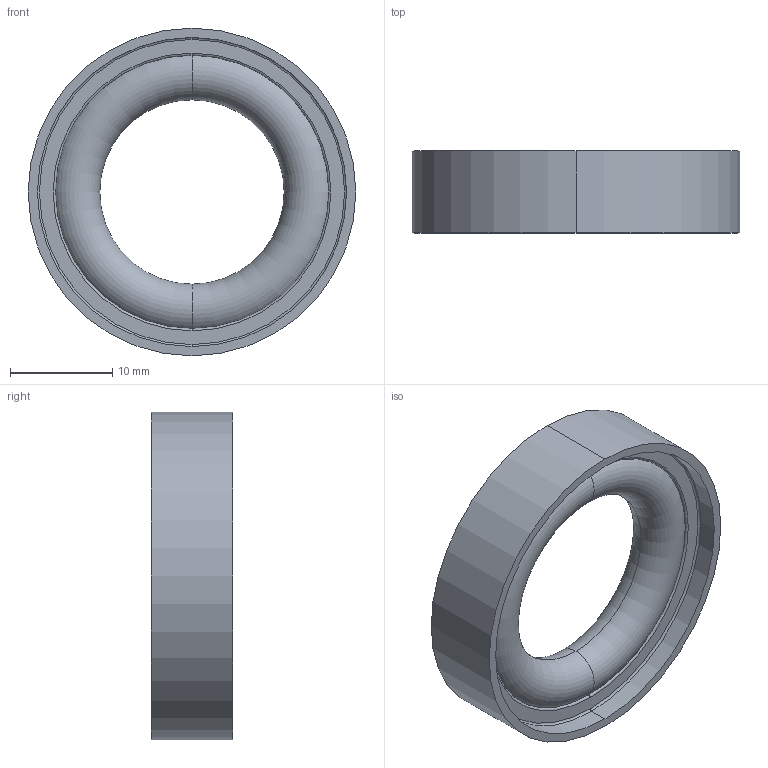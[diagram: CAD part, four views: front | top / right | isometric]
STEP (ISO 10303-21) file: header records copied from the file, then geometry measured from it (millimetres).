
FILE_DESCRIPTION (( 'STEP AP214' ), '1' );
FILE_NAME ('W3AZR16.STEP', '2019-11-14T06:11:02', ( '' ), ( '' ), 'SwSTEP 2.0', 'SolidWorks 2018', '' );
FILE_SCHEMA (( 'AUTOMOTIVE_DESIGN' ));
Length unit declared in the file: millimetre
Products named in the file (3): W3AZR16; W3ZA16_Ring
Assembly tree (2 placements, depth 2):
  W3AZR16
    W3AZR16
    W3ZA16_Ring
Bounding box: 32 x 8 x 32 mm (x, y, z)
Volume: 2603.7 mm3; surface area: 3148.1 mm2
Topology: 2 solids, 2 shells, 28 faces, 56 edges, 32 vertices
Faces by surface type: torus 18, cylinder 6, plane 4
Entity records: 860 total; most frequent: DIRECTION 172, CARTESIAN_POINT 121, ORIENTED_EDGE 112, AXIS2_PLACEMENT_3D 83, EDGE_CURVE 56, CIRCLE 50, VERTEX_POINT 32, EDGE_LOOP 32
